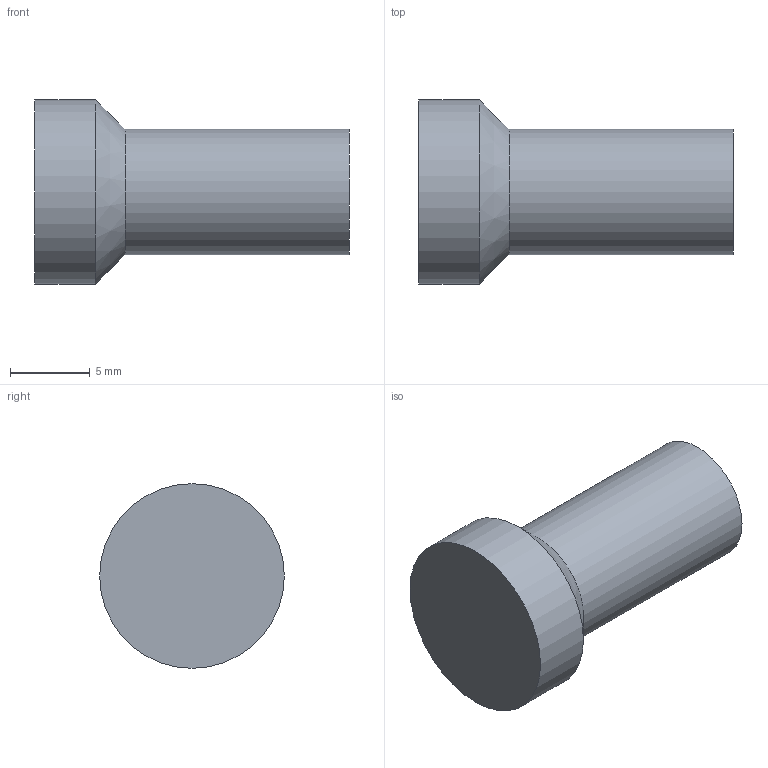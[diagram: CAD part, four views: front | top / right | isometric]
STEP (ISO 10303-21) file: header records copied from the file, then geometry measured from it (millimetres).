
FILE_DESCRIPTION(/* description */ (''),/* implementation_level */ '2;1');
FILE_NAME(/* name */ 'D:\~~GatCad\BWA - Ammo\BWA-Ammo V1.0\STEP\Primer Seating Tool Male.stp',/* time_stamp */ '2020-06-11T18:33:21-05:00',/* author */ ('johne'),/* organization */ (''),/* preprocessor_version */ 'ST-DEVELOPER v18',/* originating_system */ 'Autodesk Inventor 2020',/* authorisation */ '');
FILE_SCHEMA (('AUTOMOTIVE_DESIGN { 1 0 10303 214 3 1 1 }'));
Length unit declared in the file: inch
Products named in the file (1): Seating male
Bounding box: 19.75 x 11.59 x 11.59 mm (x, y, z)
Volume: 1227.8 mm3; surface area: 721.7 mm2
Topology: 1 solids, 1 shells, 5 faces, 11 edges, 8 vertices
Faces by surface type: cylinder 2, plane 2, cone 1
Full cylindrical faces by diameter (mm): 7.874 x1, 11.592 x1
Entity records: 192 total; most frequent: DIRECTION 31, CARTESIAN_POINT 25, ORIENTED_EDGE 22, AXIS2_PLACEMENT_3D 14, EDGE_CURVE 11, CIRCLE 8, VERTEX_POINT 8, FACE_OUTER_BOUND 5
